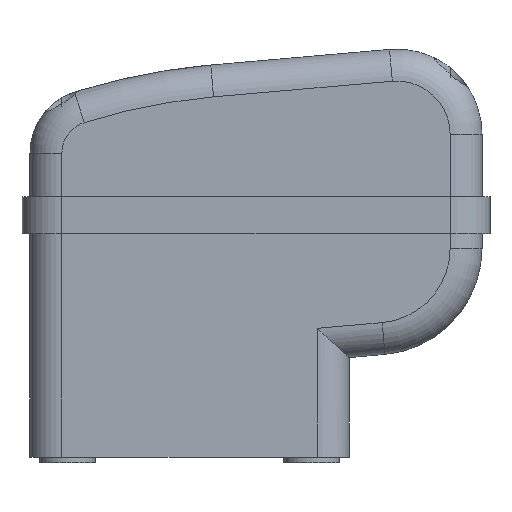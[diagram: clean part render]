
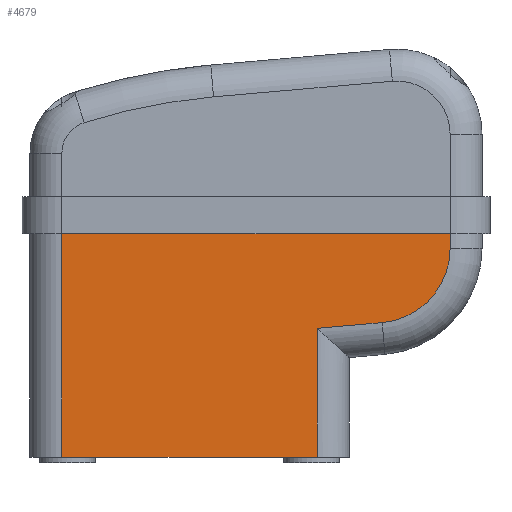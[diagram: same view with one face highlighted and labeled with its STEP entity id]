
A CAD part, front view. The second image highlights one B-rep face of the part: STEP entity #4679.
In plain terms, the highlighted planar face has unit normal (0, -1, 0).
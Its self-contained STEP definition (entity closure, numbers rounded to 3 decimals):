
#452 = CARTESIAN_POINT ( 'NONE',  ( 45., -80., 39.264 ) ) ;
#969 = CIRCLE ( 'NONE', #2187, 14. ) ;
#1114 = LINE ( 'NONE', #1207, #1584 ) ;
#1207 = CARTESIAN_POINT ( 'NONE',  ( -14., -80., 0. ) ) ;
#1378 = DIRECTION ( 'NONE',  ( 0., 0., -1. ) ) ;
#1389 = DIRECTION ( 'NONE',  ( 0., 0., -1. ) ) ;
#1584 = VECTOR ( 'NONE', #1389, 1000. ) ;
#1596 = VECTOR ( 'NONE', #13981, 1000. ) ;
#1686 = ORIENTED_EDGE ( 'NONE', *, *, #10882, .T. ) ;
#2187 = AXIS2_PLACEMENT_3D ( 'NONE', #452, #6191, #7818 ) ;
#2292 = VECTOR ( 'NONE', #16417, 1000. ) ;
#2545 = VERTEX_POINT ( 'NONE', #4616 ) ;
#3548 = EDGE_CURVE ( 'NONE', #18194, #7767, #8837, .T. ) ;
#4157 = AXIS2_PLACEMENT_3D ( 'NONE', #13003, #14148, #1378 ) ;
#4439 = EDGE_CURVE ( 'NONE', #4454, #9824, #12360, .T. ) ;
#4454 = VERTEX_POINT ( 'NONE', #16632 ) ;
#4616 = CARTESIAN_POINT ( 'NONE',  ( 59., -80., 44. ) ) ;
#4679 = ADVANCED_FACE ( 'NONE', ( #14424 ), #8358, .T. ) ;
#5536 = EDGE_CURVE ( 'NONE', #18194, #4454, #7652, .T. ) ;
#5788 = VERTEX_POINT ( 'NONE', #14278 ) ;
#5847 = CARTESIAN_POINT ( 'NONE',  ( 46.22, -80., 25.317 ) ) ;
#6191 = DIRECTION ( 'NONE',  ( 0., -1., 0. ) ) ;
#7652 = LINE ( 'NONE', #8883, #17192 ) ;
#7685 = CARTESIAN_POINT ( 'NONE',  ( 62., -80., 44. ) ) ;
#7757 = VERTEX_POINT ( 'NONE', #7934 ) ;
#7767 = VERTEX_POINT ( 'NONE', #13725 ) ;
#7818 = DIRECTION ( 'NONE',  ( 0., 0., -1. ) ) ;
#7934 = CARTESIAN_POINT ( 'NONE',  ( 59., -80., 39.264 ) ) ;
#8220 = EDGE_CURVE ( 'NONE', #7757, #2545, #11132, .T. ) ;
#8358 = PLANE ( 'NONE',  #4157 ) ;
#8733 = VECTOR ( 'NONE', #16422, 1000. ) ;
#8837 = LINE ( 'NONE', #10636, #8733 ) ;
#8883 = CARTESIAN_POINT ( 'NONE',  ( 34., -80., 19.899 ) ) ;
#9612 = ORIENTED_EDGE ( 'NONE', *, *, #11098, .T. ) ;
#9824 = VERTEX_POINT ( 'NONE', #5847 ) ;
#10636 = CARTESIAN_POINT ( 'NONE',  ( -20., -80., 0. ) ) ;
#10882 = EDGE_CURVE ( 'NONE', #9824, #7757, #969, .T. ) ;
#11098 = EDGE_CURVE ( 'NONE', #5788, #7767, #1114, .T. ) ;
#11132 = LINE ( 'NONE', #15672, #1596 ) ;
#11248 = CARTESIAN_POINT ( 'NONE',  ( 34., -80., 0. ) ) ;
#11537 = ORIENTED_EDGE ( 'NONE', *, *, #3548, .F. ) ;
#12360 = LINE ( 'NONE', #18333, #16323 ) ;
#12558 = ORIENTED_EDGE ( 'NONE', *, *, #12632, .F. ) ;
#12632 = EDGE_CURVE ( 'NONE', #5788, #2545, #17746, .T. ) ;
#13003 = CARTESIAN_POINT ( 'NONE',  ( 30., -80., 10.848 ) ) ;
#13435 = DIRECTION ( 'NONE',  ( 0., 0., 1. ) ) ;
#13495 = ORIENTED_EDGE ( 'NONE', *, *, #8220, .T. ) ;
#13725 = CARTESIAN_POINT ( 'NONE',  ( -14., -80., 0. ) ) ;
#13976 = DIRECTION ( 'NONE',  ( 0.996, 0., 0.087 ) ) ;
#13981 = DIRECTION ( 'NONE',  ( 0., 0., 1. ) ) ;
#14148 = DIRECTION ( 'NONE',  ( 0., -1., 0. ) ) ;
#14278 = CARTESIAN_POINT ( 'NONE',  ( -14., -80., 44. ) ) ;
#14424 = FACE_OUTER_BOUND ( 'NONE', #16150, .T. ) ;
#15005 = ORIENTED_EDGE ( 'NONE', *, *, #5536, .T. ) ;
#15672 = CARTESIAN_POINT ( 'NONE',  ( 59., -80., 44. ) ) ;
#16150 = EDGE_LOOP ( 'NONE', ( #15005, #16442, #1686, #13495, #12558, #9612, #11537 ) ) ;
#16323 = VECTOR ( 'NONE', #13976, 1000. ) ;
#16417 = DIRECTION ( 'NONE',  ( 1., 0., 0. ) ) ;
#16422 = DIRECTION ( 'NONE',  ( -1., 0., 0. ) ) ;
#16442 = ORIENTED_EDGE ( 'NONE', *, *, #4439, .T. ) ;
#16632 = CARTESIAN_POINT ( 'NONE',  ( 34., -80., 24.248 ) ) ;
#17192 = VECTOR ( 'NONE', #13435, 1000. ) ;
#17746 = LINE ( 'NONE', #7685, #2292 ) ;
#18194 = VERTEX_POINT ( 'NONE', #11248 ) ;
#18333 = CARTESIAN_POINT ( 'NONE',  ( 28.867, -80., 23.799 ) ) ;
